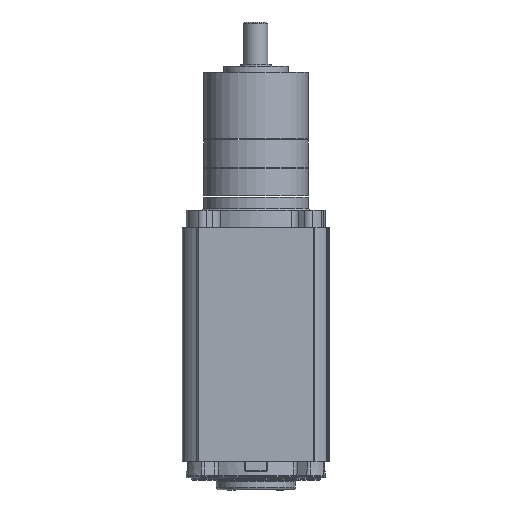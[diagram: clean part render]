
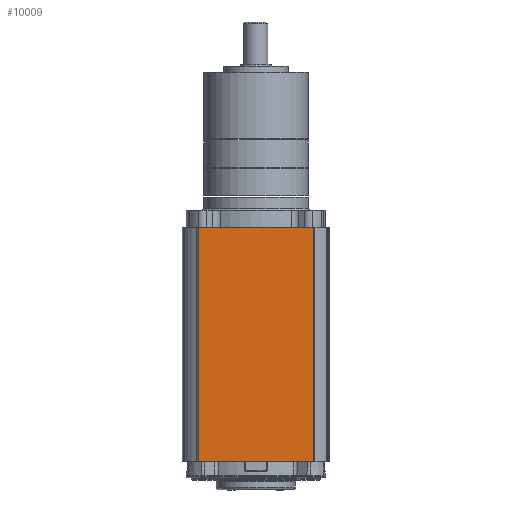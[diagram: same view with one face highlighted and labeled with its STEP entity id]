
A CAD part, front view. The second image highlights one B-rep face of the part: STEP entity #10009.
In plain terms, the highlighted planar face has unit normal (0, -1, 0).
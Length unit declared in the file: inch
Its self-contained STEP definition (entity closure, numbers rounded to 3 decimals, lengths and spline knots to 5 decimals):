
#3 = VECTOR ( 'NONE', #54311, 39.37008 ) ;
#211 = ORIENTED_EDGE ( 'NONE', *, *, #5203, .T. ) ;
#1058 = LINE ( 'NONE', #45384, #22705 ) ;
#3727 = CARTESIAN_POINT ( 'NONE',  ( 1.1275, -1.442, -6.41754 ) ) ;
#5203 = EDGE_CURVE ( 'NONE', #23582, #52413, #1058, .T. ) ;
#7431 = CARTESIAN_POINT ( 'NONE',  ( -1.1475, -1.442, -6.55254 ) ) ;
#7918 = EDGE_CURVE ( 'NONE', #23582, #37813, #36611, .T. ) ;
#10009 = ADVANCED_FACE ( 'NONE', ( #45036 ), #32916, .T. ) ;
#10216 = CARTESIAN_POINT ( 'NONE',  ( 1.1275, -1.442, -1.83454 ) ) ;
#10540 = CARTESIAN_POINT ( 'NONE',  ( 1.1275, -1.442, -6.41754 ) ) ;
#11270 = VERTEX_POINT ( 'NONE', #3727 ) ;
#11831 = DIRECTION ( 'NONE',  ( 1., 0., 0. ) ) ;
#12552 = VECTOR ( 'NONE', #32317, 39.37008 ) ;
#19533 = CARTESIAN_POINT ( 'NONE',  ( -1.1475, -1.442, -1.83454 ) ) ;
#22193 = CARTESIAN_POINT ( 'NONE',  ( -1.1275, -1.442, -6.41754 ) ) ;
#22705 = VECTOR ( 'NONE', #54013, 39.37008 ) ;
#22976 = AXIS2_PLACEMENT_3D ( 'NONE', #7431, #37380, #11831 ) ;
#23023 = LINE ( 'NONE', #24673, #3 ) ;
#23582 = VERTEX_POINT ( 'NONE', #39898 ) ;
#24673 = CARTESIAN_POINT ( 'NONE',  ( 1.1275, -1.442, -6.55254 ) ) ;
#27218 = EDGE_CURVE ( 'NONE', #11270, #37813, #23023, .T. ) ;
#30165 = LINE ( 'NONE', #10540, #51394 ) ;
#32317 = DIRECTION ( 'NONE',  ( 1., 0., 0. ) ) ;
#32916 = PLANE ( 'NONE',  #22976 ) ;
#36611 = LINE ( 'NONE', #19533, #12552 ) ;
#37380 = DIRECTION ( 'NONE',  ( 0., -1., 0. ) ) ;
#37813 = VERTEX_POINT ( 'NONE', #10216 ) ;
#39898 = CARTESIAN_POINT ( 'NONE',  ( -1.1275, -1.442, -1.83454 ) ) ;
#41359 = ORIENTED_EDGE ( 'NONE', *, *, #27218, .T. ) ;
#45036 = FACE_OUTER_BOUND ( 'NONE', #50318, .T. ) ;
#45384 = CARTESIAN_POINT ( 'NONE',  ( -1.1275, -1.442, -6.55254 ) ) ;
#50318 = EDGE_LOOP ( 'NONE', ( #211, #54855, #41359, #55390 ) ) ;
#51394 = VECTOR ( 'NONE', #52789, 39.37008 ) ;
#52413 = VERTEX_POINT ( 'NONE', #22193 ) ;
#52789 = DIRECTION ( 'NONE',  ( -1., 0., 0. ) ) ;
#53198 = EDGE_CURVE ( 'NONE', #11270, #52413, #30165, .T. ) ;
#54013 = DIRECTION ( 'NONE',  ( 0., 0., -1. ) ) ;
#54311 = DIRECTION ( 'NONE',  ( 0., 0., 1. ) ) ;
#54855 = ORIENTED_EDGE ( 'NONE', *, *, #53198, .F. ) ;
#55390 = ORIENTED_EDGE ( 'NONE', *, *, #7918, .F. ) ;
